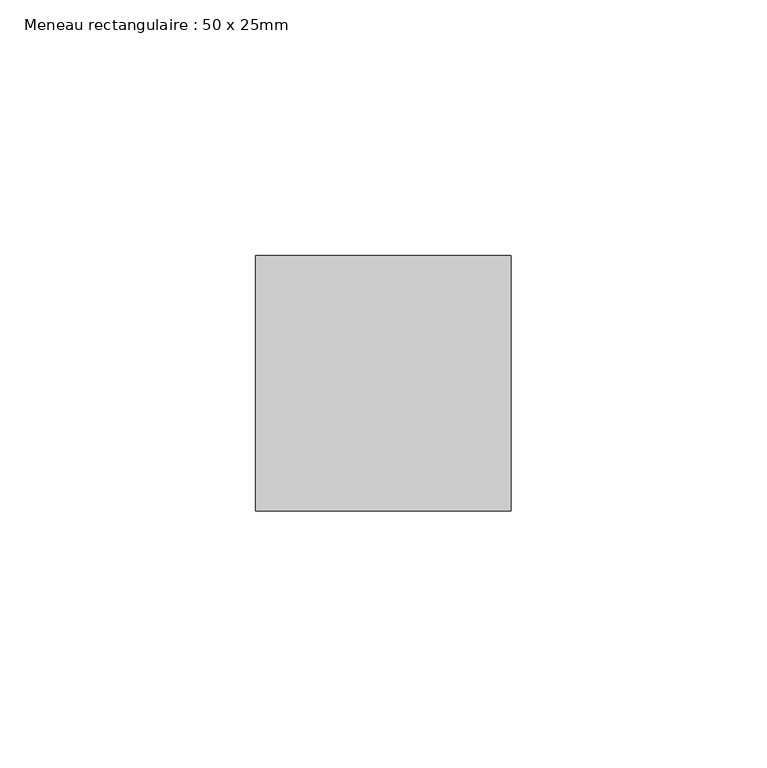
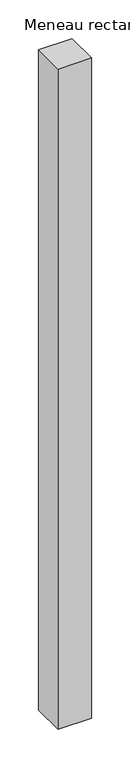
"""IFC4 building model written with IfcOpenShell, lengths in millimetres: member geometry, Meneau rectangulaire : 50 x 25mm."""

from ifc_helpers import new_model, si_unit, frame, origin, place, context, project, spatial, polyline, outline, extrude, source, transform, mapped, element, save


def meneau_rectangulaire_50_x_25mm_19738fd4(model_context):
    return source(origin(), model_context, "Body", "SweptSolid", [
        extrude(outline(polyline([(25.0, 0.0), (25.0, -50.0), (-25.0, -50.0), (-25.0, 0.0), (25.0, 0.0)])), frame((0.0, 0.0, -1041.0), z_axis=(0.0, 0.0, 1.0), x_axis=(1.0, 0.0, 0.0)), (0.0, 0.0, 1.0), 1041.0),
    ])


if __name__ == "__main__":
    model = new_model("IFC4")
    model_context = context("Model", 3, world=origin())
    ifc_project = project(units=[si_unit("LENGTHUNIT", "METRE", prefix="MILLI")], contexts=[model_context])
    site = spatial("IfcSite", under=ifc_project)
    building = spatial("IfcBuilding", under=site)
    placement = place(None, origin())
    meneau_rectangulaire_50_x_25mm_shape = meneau_rectangulaire_50_x_25mm_19738fd4(model_context)
    element("IfcMember", 1, ObjectType="Meneau rectangulaire : 50 x 25mm", at=placement, inside=building, context=model_context, shape_type="MappedRepresentation", body=[
        mapped(meneau_rectangulaire_50_x_25mm_shape, transform((0.0, 0.0, 0.0), x_axis=(1.0, 0.0, 0.0), y_axis=(0.0, 1.0, 0.0), z_axis=(0.0, 0.0, 1.0))),
    ])
    save(model, "model.ifc")
